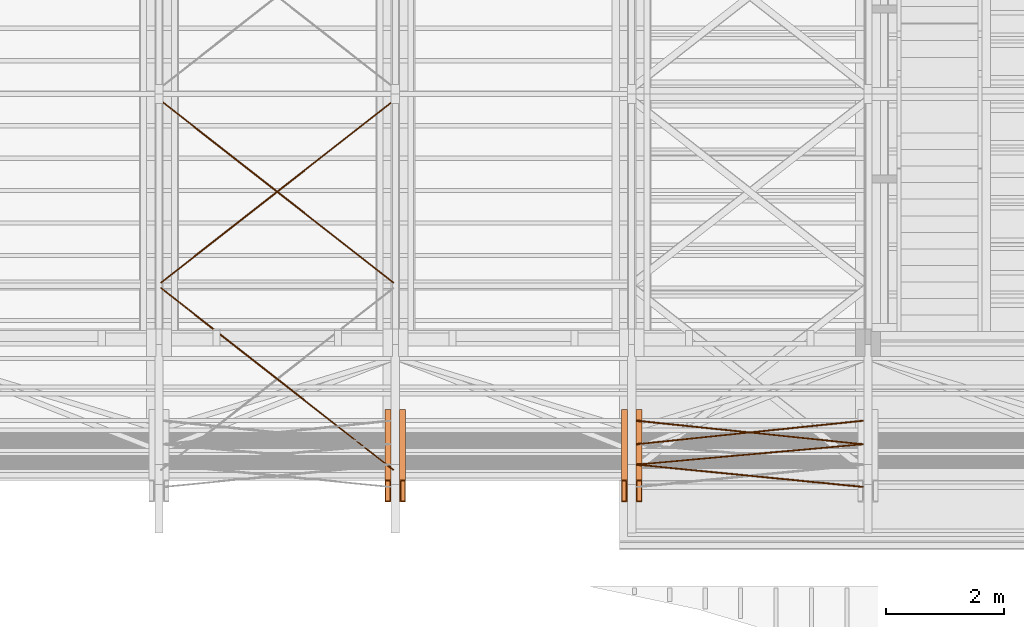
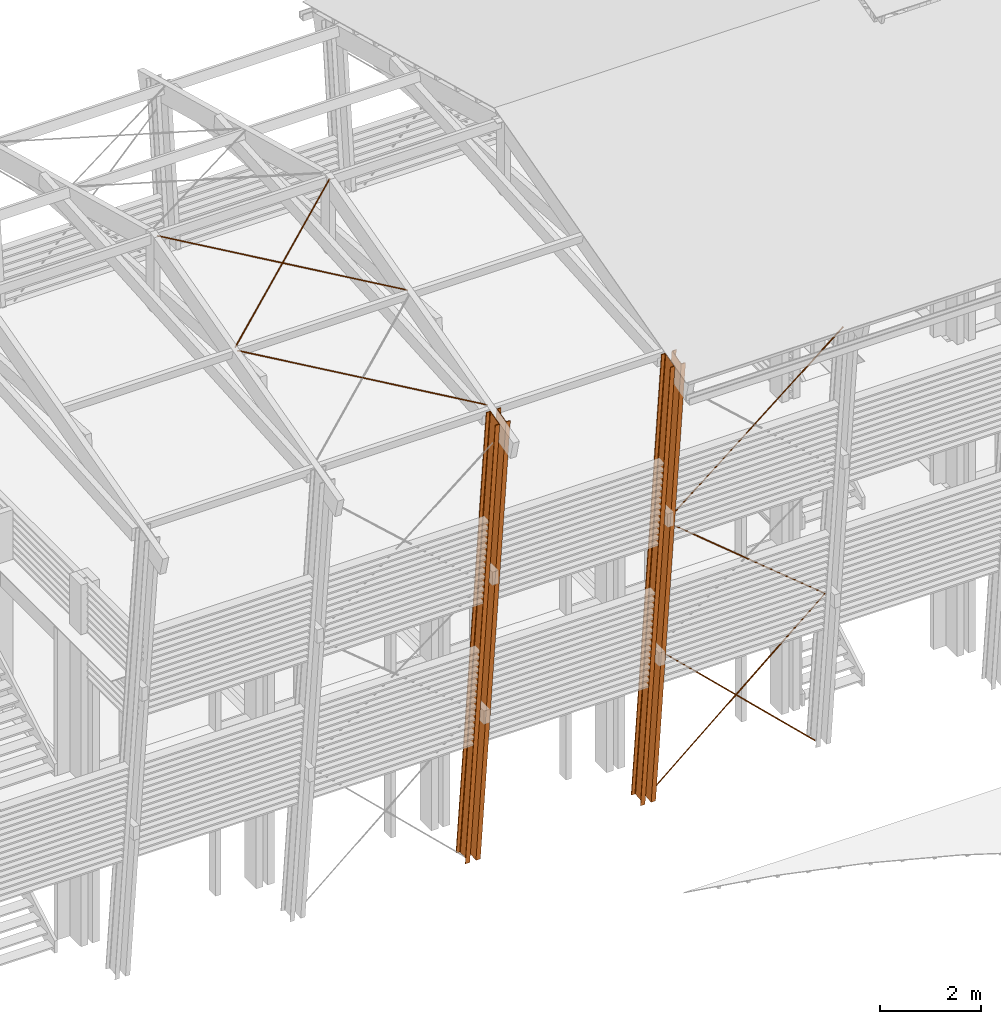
# One storey, part 36 of 48: 11 proxies.
"""IFC2X3 building model written with IfcOpenShell, lengths in metres."""

from ifc_helpers import new_model, si_unit, direction, frame, origin_with_axes, place, context, subcontext, project, spatial, faceted_brep, material, element, save


model = new_model("IFC2X3")

# Units and contexts
model_context = context("Model", 3, precision=1e-06, world=origin_with_axes(), true_north=direction((0.0, 1.0, 0.0)))
body_context = subcontext(model_context, "Body", "Model", "MODEL_VIEW")
ifc_project = project(units=[si_unit("LENGTHUNIT", "METRE"), si_unit("AREAUNIT", "SQUARE_METRE"), si_unit("VOLUMEUNIT", "CUBIC_METRE"), si_unit("PLANEANGLEUNIT", "RADIAN")], contexts=[model_context])

# Site, building, storey
site_placement = place(None, origin_with_axes())
site = spatial("IfcSite", under=ifc_project, at=site_placement, CompositionType="ELEMENT")
building_placement = place(site_placement, origin_with_axes())
building = spatial("IfcBuilding", under=site, at=building_placement, Name="Building 1", CompositionType="ELEMENT")
storey_placement = place(building_placement, origin_with_axes())
storey = spatial("IfcBuildingStorey", under=building, at=storey_placement, Name="Storey 1", CompositionType="ELEMENT", Elevation=0.0)

# Proxies
ifc_material = material(Name="Acier")
proxy_1_placement = place(storey_placement, frame((41.4057441, -195.1364145, 4.089), z_axis=(0.6523288, -0.0792259, 0.753784), x_axis=(-0.7579361, -0.0681869, 0.6487553)))
element("IfcBuildingElementProxy", 1, at=proxy_1_placement, inside=storey, material=ifc_material, Name="CVLP", context=body_context, shape_type="Brep", body=[
    faceted_brep([(5.0558353, -0.0093969, 0.0034202), (0.0, -0.01, 0.0), (5.0558353, -0.01, 0.0), (0.0, -0.0093969, -0.0034202), (5.0558353, -0.0093969, -0.0034202), (0.0, -0.0076604, -0.0064279), (5.0558353, -0.0076604, -0.0064279), (0.0, -0.005, -0.0086603), (5.0558353, -0.005, -0.0086603), (0.0, -0.0017365, -0.0098481), (5.0558353, -0.0017365, -0.0098481), (0.0, 0.0017365, -0.0098481), (5.0558353, 0.0017365, -0.0098481), (0.0, 0.005, -0.0086603), (5.0558353, 0.005, -0.0086603), (0.0, 0.0076604, -0.0064279), (5.0558353, 0.0076604, -0.0064279), (0.0, 0.0093969, -0.0034202), (5.0558353, 0.0093969, -0.0034202), (0.0, 0.01, 0.0), (5.0558353, 0.01, 0.0), (0.0, 0.0093969, 0.0034202), (5.0558353, 0.0093969, 0.0034202), (0.0, 0.0076604, 0.0064279), (5.0558353, 0.0076604, 0.0064279), (0.0, 0.005, 0.0086603), (5.0558353, 0.005, 0.0086603), (0.0, 0.0017365, 0.0098481), (5.0558353, 0.0017365, 0.0098481), (0.0, -0.0017365, 0.0098481), (5.0558353, -0.0017365, 0.0098481), (0.0, -0.005, 0.0086603), (5.0558353, -0.005, 0.0086603), (0.0, -0.0076604, 0.0064279), (5.0558353, -0.0076604, 0.0064279), (0.0, -0.0093969, 0.0034202)], [[[0, 1, 2]], [[2, 1, 3]], [[2, 3, 4]], [[4, 3, 5]], [[4, 5, 6]], [[6, 5, 7]], [[6, 7, 8]], [[8, 7, 9]], [[8, 9, 10]], [[10, 9, 11]], [[10, 11, 12]], [[12, 11, 13]], [[12, 13, 14]], [[14, 13, 15]], [[14, 15, 16]], [[16, 15, 17]], [[16, 17, 18]], [[18, 17, 19]], [[18, 19, 20]], [[20, 19, 21]], [[20, 21, 22]], [[22, 21, 23]], [[22, 23, 24]], [[24, 23, 25]], [[24, 25, 26]], [[26, 25, 27]], [[26, 27, 28]], [[28, 27, 29]], [[28, 29, 30]], [[30, 29, 31]], [[30, 31, 32]], [[32, 31, 33]], [[32, 33, 34]], [[34, 33, 35]], [[34, 35, 0]], [[0, 35, 1]], [[10, 12, 8]], [[8, 12, 14]], [[8, 14, 6]], [[6, 14, 16]], [[6, 16, 4]], [[4, 16, 18]], [[4, 18, 2]], [[2, 18, 20]], [[2, 20, 0]], [[0, 20, 22]], [[0, 22, 34]], [[34, 22, 24]], [[34, 24, 32]], [[32, 24, 26]], [[32, 26, 30]], [[30, 26, 28]], [[29, 27, 31]], [[31, 27, 25]], [[31, 25, 33]], [[33, 25, 23]], [[33, 23, 35]], [[35, 23, 21]], [[35, 21, 1]], [[1, 21, 19]], [[1, 19, 3]], [[3, 19, 17]], [[3, 17, 5]], [[5, 17, 15]], [[5, 15, 7]], [[7, 15, 13]], [[7, 13, 9]], [[9, 13, 11]]]),
])
proxy_2_placement = place(storey_placement, frame((41.4057433, -194.7381746, 0.3), z_axis=(0.7050562, -0.0741265, 0.7052666), x_axis=(-0.7091514, -0.0736984, 0.7011938)))
element("IfcBuildingElementProxy", 2, at=proxy_2_placement, inside=storey, material=ifc_material, Name="CVLP", context=body_context, shape_type="Brep", body=[
    faceted_brep([(5.4036414, 0.0093969, -0.0034202), (0.0, 0.01, 0.0), (5.4036414, 0.01, 0.0), (0.0, 0.0093969, 0.0034202), (5.4036414, 0.0093969, 0.0034202), (0.0, 0.0076604, 0.0064279), (5.4036414, 0.0076604, 0.0064279), (0.0, 0.005, 0.0086603), (5.4036414, 0.005, 0.0086603), (0.0, 0.0017365, 0.0098481), (5.4036414, 0.0017365, 0.0098481), (0.0, -0.0017365, 0.0098481), (5.4036414, -0.0017365, 0.0098481), (0.0, -0.005, 0.0086603), (5.4036414, -0.005, 0.0086603), (0.0, -0.0076604, 0.0064279), (5.4036414, -0.0076604, 0.0064279), (0.0, -0.0093969, 0.0034202), (5.4036414, -0.0093969, 0.0034202), (0.0, -0.01, 0.0), (5.4036414, -0.01, 0.0), (0.0, -0.0093969, -0.0034202), (5.4036414, -0.0093969, -0.0034202), (0.0, -0.0076604, -0.0064279), (5.4036414, -0.0076604, -0.0064279), (0.0, -0.005, -0.0086603), (5.4036414, -0.005, -0.0086603), (0.0, -0.0017365, -0.0098481), (5.4036414, -0.0017365, -0.0098481), (0.0, 0.0017365, -0.0098481), (5.4036414, 0.0017365, -0.0098481), (0.0, 0.005, -0.0086603), (5.4036414, 0.005, -0.0086603), (0.0, 0.0076604, -0.0064279), (5.4036414, 0.0076604, -0.0064279), (0.0, 0.0093969, -0.0034202)], [[[0, 1, 2]], [[2, 1, 3]], [[2, 3, 4]], [[4, 3, 5]], [[4, 5, 6]], [[6, 5, 7]], [[6, 7, 8]], [[8, 7, 9]], [[8, 9, 10]], [[10, 9, 11]], [[10, 11, 12]], [[12, 11, 13]], [[12, 13, 14]], [[14, 13, 15]], [[14, 15, 16]], [[16, 15, 17]], [[16, 17, 18]], [[18, 17, 19]], [[18, 19, 20]], [[20, 19, 21]], [[20, 21, 22]], [[22, 21, 23]], [[22, 23, 24]], [[24, 23, 25]], [[24, 25, 26]], [[26, 25, 27]], [[26, 27, 28]], [[28, 27, 29]], [[28, 29, 30]], [[30, 29, 31]], [[30, 31, 32]], [[32, 31, 33]], [[32, 33, 34]], [[34, 33, 35]], [[34, 35, 0]], [[0, 35, 1]], [[10, 12, 8]], [[8, 12, 14]], [[8, 14, 6]], [[6, 14, 16]], [[6, 16, 4]], [[4, 16, 18]], [[4, 18, 2]], [[2, 18, 20]], [[2, 20, 0]], [[0, 20, 22]], [[0, 22, 34]], [[34, 22, 24]], [[34, 24, 32]], [[32, 24, 26]], [[32, 26, 30]], [[30, 26, 28]], [[29, 27, 31]], [[31, 27, 25]], [[31, 25, 33]], [[33, 25, 23]], [[33, 23, 35]], [[35, 23, 21]], [[35, 21, 1]], [[1, 21, 19]], [[1, 19, 3]], [[3, 19, 17]], [[3, 17, 5]], [[5, 17, 15]], [[5, 15, 7]], [[7, 15, 13]], [[7, 13, 9]], [[9, 13, 11]]]),
])
proxy_3_placement = place(storey_placement, frame((37.3687437, -195.9301471, 11.6408612), z_axis=(0.0, 0.9945219, 0.1045285), x_axis=(0.0, 0.1045285, -0.9945219)))
element("IfcBuildingElementProxy", 3, at=proxy_3_placement, inside=storey, material=ifc_material, Name="Poteau", context=body_context, shape_type="Brep", body=[
    faceted_brep([(0.0588262, 0.0506328, -0.181414), (0.0592057, 0.051, -0.18381), (0.0579402, 0.0433995, -0.17582), (0.0601861, 0.051, -0.19), (0.0574199, -0.022299, -0.172535), (0.0601861, -0.051, -0.19), (0.0572658, -0.0270483, -0.1715622), (0.0568935, -0.0312883, -0.1692116), (0.0038489, -0.0346296, 0.165699), (0.0045382, -0.0367655, 0.161347), (0.0, -0.051, 0.19), (0.0052972, -0.0375, 0.156555), (0.0548889, -0.0375, -0.156555), (0.0556479, -0.0367655, -0.161347), (0.0009804, 0.051, 0.18381), (0.0022459, 0.0433995, 0.17582), (0.0, 0.051, 0.19), (0.0027662, -0.022299, 0.172535), (0.0029203, -0.0270483, 0.1715622), (0.0032926, -0.0312883, 0.1692116), (0.0013599, 0.0506328, 0.181414), (0.0017045, 0.0495648, 0.179238), (0.0019827, 0.0478941, 0.1774817), (0.0021689, 0.0457742, 0.1763064), (0.0563372, -0.0346296, -0.165699), (0.0580172, 0.0457742, -0.1763064), (0.0582034, 0.0478941, -0.1774817), (0.0584816, 0.0495648, -0.179238), (11.420672, 0.0433995, 0.17582), (11.420672, 0.0457742, 0.1763064), (11.420672, 0.0478941, 0.1774817), (11.420672, 0.0495648, 0.179238), (11.420672, 0.0506328, 0.181414), (11.420672, 0.051, 0.18381), (11.420672, 0.051, 0.19), (11.420672, -0.051, 0.19), (11.420672, -0.051, -0.19), (11.420672, 0.051, -0.19), (11.420672, 0.051, -0.18381), (11.420672, 0.0506328, -0.181414), (11.420672, 0.0495648, -0.179238), (11.420672, 0.0478941, -0.1774817), (11.420672, 0.0457742, -0.1763064), (11.420672, 0.0433995, -0.17582), (11.420672, -0.022299, -0.172535), (11.420672, -0.0270483, -0.1715622), (11.420672, -0.0312883, -0.1692116), (11.420672, -0.0346296, -0.165699), (11.420672, -0.0367655, -0.161347), (11.420672, -0.0375, -0.156555), (11.420672, -0.0375, 0.156555), (11.420672, -0.0367655, 0.161347), (11.420672, -0.0346296, 0.165699), (11.420672, -0.0312883, 0.1692116), (11.420672, -0.0270483, 0.1715622), (11.420672, -0.022299, 0.172535)], [[[0, 1, 2]], [[2, 1, 3]], [[2, 3, 4]], [[4, 3, 5]], [[4, 5, 6]], [[6, 5, 7]], [[8, 9, 10]], [[10, 9, 11]], [[10, 11, 5]], [[5, 11, 12]], [[5, 12, 13]], [[14, 15, 16]], [[16, 15, 17]], [[16, 17, 10]], [[10, 17, 18]], [[10, 18, 19]], [[14, 20, 15]], [[15, 20, 21]], [[15, 21, 22]], [[22, 23, 15]], [[19, 8, 10]], [[13, 24, 5]], [[5, 24, 7]], [[25, 26, 2]], [[2, 26, 27]], [[2, 27, 0]], [[15, 23, 28]], [[28, 23, 29]], [[23, 22, 29]], [[29, 22, 30]], [[22, 21, 30]], [[30, 21, 31]], [[21, 20, 31]], [[31, 20, 32]], [[20, 14, 32]], [[32, 14, 33]], [[16, 34, 14]], [[14, 34, 33]], [[10, 5, 35]], [[35, 5, 36]], [[5, 3, 36]], [[36, 3, 37]], [[1, 38, 3]], [[3, 38, 37]], [[1, 0, 38]], [[38, 0, 39]], [[0, 27, 39]], [[39, 27, 40]], [[27, 26, 40]], [[40, 26, 41]], [[26, 25, 41]], [[41, 25, 42]], [[25, 2, 42]], [[42, 2, 43]], [[4, 44, 2]], [[2, 44, 43]], [[4, 6, 44]], [[44, 6, 45]], [[6, 7, 45]], [[45, 7, 46]], [[7, 24, 46]], [[46, 24, 47]], [[24, 13, 47]], [[47, 13, 48]], [[13, 12, 48]], [[48, 12, 49]], [[11, 50, 12]], [[12, 50, 49]], [[11, 9, 50]], [[50, 9, 51]], [[9, 8, 51]], [[51, 8, 52]], [[8, 19, 52]], [[52, 19, 53]], [[19, 18, 53]], [[53, 18, 54]], [[18, 17, 54]], [[54, 17, 55]], [[15, 28, 17]], [[17, 28, 55]], [[35, 34, 10]], [[10, 34, 16]], [[48, 49, 36]], [[36, 49, 50]], [[36, 50, 35]], [[35, 50, 51]], [[35, 51, 52]], [[41, 42, 38]], [[38, 42, 43]], [[38, 43, 37]], [[37, 43, 44]], [[37, 44, 36]], [[36, 44, 45]], [[36, 45, 46]], [[39, 40, 38]], [[38, 40, 41]], [[46, 47, 36]], [[36, 47, 48]], [[52, 53, 35]], [[35, 53, 54]], [[35, 54, 55]], [[35, 55, 34]], [[34, 55, 28]], [[34, 28, 33]], [[33, 28, 32]], [[29, 30, 28]], [[28, 30, 31]], [[28, 31, 32]]]),
])
proxy_4_placement = place(storey_placement, frame((37.5737441, -195.4811564, 7.369), z_axis=(-0.6859491, -0.0760601, 0.7236634), x_axis=(0.7276496, -0.0717012, 0.6821914)))
element("IfcBuildingElementProxy", 4, at=proxy_4_placement, inside=storey, material=ifc_material, Name="CVLP", context=body_context, shape_type="Brep", body=[
    faceted_brep([(5.2662712, -0.0093969, 0.0034202), (0.0, -0.01, 0.0), (5.2662712, -0.01, 0.0), (0.0, -0.0093969, -0.0034202), (5.2662712, -0.0093969, -0.0034202), (0.0, -0.0076604, -0.0064279), (5.2662712, -0.0076604, -0.0064279), (0.0, -0.005, -0.0086603), (5.2662712, -0.005, -0.0086603), (0.0, -0.0017365, -0.0098481), (5.2662712, -0.0017365, -0.0098481), (0.0, 0.0017365, -0.0098481), (5.2662712, 0.0017365, -0.0098481), (0.0, 0.005, -0.0086603), (5.2662712, 0.005, -0.0086603), (0.0, 0.0076604, -0.0064279), (5.2662712, 0.0076604, -0.0064279), (0.0, 0.0093969, -0.0034202), (5.2662712, 0.0093969, -0.0034202), (0.0, 0.01, 0.0), (5.2662712, 0.01, 0.0), (0.0, 0.0093969, 0.0034202), (5.2662712, 0.0093969, 0.0034202), (0.0, 0.0076604, 0.0064279), (5.2662712, 0.0076604, 0.0064279), (0.0, 0.005, 0.0086603), (5.2662712, 0.005, 0.0086603), (0.0, 0.0017365, 0.0098481), (5.2662712, 0.0017365, 0.0098481), (0.0, -0.0017365, 0.0098481), (5.2662712, -0.0017365, 0.0098481), (0.0, -0.005, 0.0086603), (5.2662712, -0.005, 0.0086603), (0.0, -0.0076604, 0.0064279), (5.2662712, -0.0076604, 0.0064279), (0.0, -0.0093969, 0.0034202)], [[[0, 1, 2]], [[2, 1, 3]], [[2, 3, 4]], [[4, 3, 5]], [[4, 5, 6]], [[6, 5, 7]], [[6, 7, 8]], [[8, 7, 9]], [[8, 9, 10]], [[10, 9, 11]], [[10, 11, 12]], [[12, 11, 13]], [[12, 13, 14]], [[14, 13, 15]], [[14, 15, 16]], [[16, 15, 17]], [[16, 17, 18]], [[18, 17, 19]], [[18, 19, 20]], [[20, 19, 21]], [[20, 21, 22]], [[22, 21, 23]], [[22, 23, 24]], [[24, 23, 25]], [[24, 25, 26]], [[26, 25, 27]], [[26, 27, 28]], [[28, 27, 29]], [[28, 29, 30]], [[30, 29, 31]], [[30, 31, 32]], [[32, 31, 33]], [[32, 33, 34]], [[34, 33, 35]], [[34, 35, 0]], [[0, 35, 1]], [[10, 12, 8]], [[8, 12, 14]], [[8, 14, 6]], [[6, 14, 16]], [[6, 16, 4]], [[4, 16, 18]], [[4, 18, 2]], [[2, 18, 20]], [[2, 20, 0]], [[0, 20, 22]], [[0, 22, 34]], [[34, 22, 24]], [[34, 24, 32]], [[32, 24, 26]], [[32, 26, 30]], [[30, 26, 28]], [[29, 27, 31]], [[31, 27, 25]], [[31, 25, 33]], [[33, 25, 23]], [[33, 23, 35]], [[35, 23, 21]], [[35, 21, 1]], [[1, 21, 19]], [[1, 19, 3]], [[3, 19, 17]], [[3, 17, 5]], [[5, 17, 15]], [[5, 15, 7]], [[7, 15, 13]], [[7, 13, 9]], [[9, 13, 11]]]),
])
proxy_5_placement = place(storey_placement, frame((37.5737441, -194.7381746, 0.3), z_axis=(-0.7050562, -0.0741265, 0.7052666), x_axis=(0.7091514, -0.0736984, 0.7011938)))
element("IfcBuildingElementProxy", 5, at=proxy_5_placement, inside=storey, material=ifc_material, Name="CVLP", context=body_context, shape_type="Brep", body=[
    faceted_brep([(5.4036414, -0.0093969, 0.0034202), (0.0, -0.01, 0.0), (5.4036414, -0.01, 0.0), (0.0, -0.0093969, -0.0034202), (5.4036414, -0.0093969, -0.0034202), (0.0, -0.0076604, -0.0064279), (5.4036414, -0.0076604, -0.0064279), (0.0, -0.005, -0.0086603), (5.4036414, -0.005, -0.0086603), (0.0, -0.0017365, -0.0098481), (5.4036414, -0.0017365, -0.0098481), (0.0, 0.0017365, -0.0098481), (5.4036414, 0.0017365, -0.0098481), (0.0, 0.005, -0.0086603), (5.4036414, 0.005, -0.0086603), (0.0, 0.0076604, -0.0064279), (5.4036414, 0.0076604, -0.0064279), (0.0, 0.0093969, -0.0034202), (5.4036414, 0.0093969, -0.0034202), (0.0, 0.01, 0.0), (5.4036414, 0.01, 0.0), (0.0, 0.0093969, 0.0034202), (5.4036414, 0.0093969, 0.0034202), (0.0, 0.0076604, 0.0064279), (5.4036414, 0.0076604, 0.0064279), (0.0, 0.005, 0.0086603), (5.4036414, 0.005, 0.0086603), (0.0, 0.0017365, 0.0098481), (5.4036414, 0.0017365, 0.0098481), (0.0, -0.0017365, 0.0098481), (5.4036414, -0.0017365, 0.0098481), (0.0, -0.005, 0.0086603), (5.4036414, -0.005, 0.0086603), (0.0, -0.0076604, 0.0064279), (5.4036414, -0.0076604, 0.0064279), (0.0, -0.0093969, 0.0034202)], [[[0, 1, 2]], [[2, 1, 3]], [[2, 3, 4]], [[4, 3, 5]], [[4, 5, 6]], [[6, 5, 7]], [[6, 7, 8]], [[8, 7, 9]], [[8, 9, 10]], [[10, 9, 11]], [[10, 11, 12]], [[12, 11, 13]], [[12, 13, 14]], [[14, 13, 15]], [[14, 15, 16]], [[16, 15, 17]], [[16, 17, 18]], [[18, 17, 19]], [[18, 19, 20]], [[20, 19, 21]], [[20, 21, 22]], [[22, 21, 23]], [[22, 23, 24]], [[24, 23, 25]], [[24, 25, 26]], [[26, 25, 27]], [[26, 27, 28]], [[28, 27, 29]], [[28, 29, 30]], [[30, 29, 31]], [[30, 31, 32]], [[32, 31, 33]], [[32, 33, 34]], [[34, 33, 35]], [[34, 35, 0]], [[0, 35, 1]], [[10, 12, 8]], [[8, 12, 14]], [[8, 14, 6]], [[6, 14, 16]], [[6, 16, 4]], [[4, 16, 18]], [[4, 18, 2]], [[2, 18, 20]], [[2, 20, 0]], [[0, 20, 22]], [[0, 22, 34]], [[34, 22, 24]], [[34, 24, 32]], [[32, 24, 26]], [[32, 26, 30]], [[30, 26, 28]], [[29, 27, 31]], [[31, 27, 25]], [[31, 25, 33]], [[33, 25, 23]], [[33, 23, 35]], [[35, 23, 21]], [[35, 21, 1]], [[1, 21, 19]], [[1, 19, 3]], [[3, 19, 17]], [[3, 17, 5]], [[5, 17, 15]], [[5, 15, 7]], [[7, 15, 13]], [[7, 13, 9]], [[9, 13, 11]]]),
])
proxy_6_placement = place(storey_placement, frame((33.4575106, -192.402372, 12.5320609), z_axis=(0.6294478, 0.7505657, 0.2011135), x_axis=(-0.7770428, 0.6079999, 0.1629131)))
element("IfcBuildingElementProxy", 6, at=proxy_6_placement, inside=storey, material=ifc_material, Name="CVT", context=body_context, shape_type="Brep", body=[
    faceted_brep([(5.0647581, -0.0093969, 0.0034202), (0.0, -0.01, 0.0), (5.0647581, -0.01, 0.0), (0.0, -0.0093969, -0.0034202), (5.0647581, -0.0093969, -0.0034202), (0.0, -0.0076604, -0.0064279), (5.0647581, -0.0076604, -0.0064279), (0.0, -0.005, -0.0086603), (5.0647581, -0.005, -0.0086603), (0.0, -0.0017365, -0.0098481), (5.0647581, -0.0017365, -0.0098481), (0.0, 0.0017365, -0.0098481), (5.0647581, 0.0017365, -0.0098481), (0.0, 0.005, -0.0086603), (5.0647581, 0.005, -0.0086603), (0.0, 0.0076604, -0.0064279), (5.0647581, 0.0076604, -0.0064279), (0.0, 0.0093969, -0.0034202), (5.0647581, 0.0093969, -0.0034202), (0.0, 0.01, 0.0), (5.0647581, 0.01, 0.0), (0.0, 0.0093969, 0.0034202), (5.0647581, 0.0093969, 0.0034202), (0.0, 0.0076604, 0.0064279), (5.0647581, 0.0076604, 0.0064279), (0.0, 0.005, 0.0086603), (5.0647581, 0.005, 0.0086603), (0.0, 0.0017365, 0.0098481), (5.0647581, 0.0017365, 0.0098481), (0.0, -0.0017365, 0.0098481), (5.0647581, -0.0017365, 0.0098481), (0.0, -0.005, 0.0086603), (5.0647581, -0.005, 0.0086603), (0.0, -0.0076604, 0.0064279), (5.0647581, -0.0076604, 0.0064279), (0.0, -0.0093969, 0.0034202)], [[[0, 1, 2]], [[2, 1, 3]], [[2, 3, 4]], [[4, 3, 5]], [[4, 5, 6]], [[6, 5, 7]], [[6, 7, 8]], [[8, 7, 9]], [[8, 9, 10]], [[10, 9, 11]], [[10, 11, 12]], [[12, 11, 13]], [[12, 13, 14]], [[14, 13, 15]], [[14, 15, 16]], [[16, 15, 17]], [[16, 17, 18]], [[18, 17, 19]], [[18, 19, 20]], [[20, 19, 21]], [[20, 21, 22]], [[22, 21, 23]], [[22, 23, 24]], [[24, 23, 25]], [[24, 25, 26]], [[26, 25, 27]], [[26, 27, 28]], [[28, 27, 29]], [[28, 29, 30]], [[30, 29, 31]], [[30, 31, 32]], [[32, 31, 33]], [[32, 33, 34]], [[34, 33, 35]], [[34, 35, 0]], [[0, 35, 1]], [[10, 12, 8]], [[8, 12, 14]], [[8, 14, 6]], [[6, 14, 16]], [[6, 16, 4]], [[4, 16, 18]], [[4, 18, 2]], [[2, 18, 20]], [[2, 20, 0]], [[0, 20, 22]], [[0, 22, 34]], [[34, 22, 24]], [[34, 24, 32]], [[32, 24, 26]], [[32, 26, 30]], [[30, 26, 28]], [[29, 27, 31]], [[31, 27, 25]], [[31, 25, 33]], [[33, 25, 23]], [[33, 23, 35]], [[35, 23, 21]], [[35, 21, 1]], [[1, 21, 19]], [[1, 19, 3]], [[3, 19, 17]], [[3, 17, 5]], [[5, 17, 15]], [[5, 15, 7]], [[7, 15, 13]], [[7, 13, 9]], [[9, 13, 11]]]),
])
proxy_7_placement = place(storey_placement, frame((29.5219764, -192.402372, 12.5320609), z_axis=(-0.6294478, 0.7505657, 0.2011135), x_axis=(0.7770428, 0.6079999, 0.1629131)))
element("IfcBuildingElementProxy", 7, at=proxy_7_placement, inside=storey, material=ifc_material, Name="CVT", context=body_context, shape_type="Brep", body=[
    faceted_brep([(5.0647581, -0.0093969, 0.0034202), (0.0, -0.01, 0.0), (5.0647581, -0.01, 0.0), (0.0, -0.0093969, -0.0034202), (5.0647581, -0.0093969, -0.0034202), (0.0, -0.0076604, -0.0064279), (5.0647581, -0.0076604, -0.0064279), (0.0, -0.005, -0.0086603), (5.0647581, -0.005, -0.0086603), (0.0, -0.0017365, -0.0098481), (5.0647581, -0.0017365, -0.0098481), (0.0, 0.0017365, -0.0098481), (5.0647581, 0.0017365, -0.0098481), (0.0, 0.005, -0.0086603), (5.0647581, 0.005, -0.0086603), (0.0, 0.0076604, -0.0064279), (5.0647581, 0.0076604, -0.0064279), (0.0, 0.0093969, -0.0034202), (5.0647581, 0.0093969, -0.0034202), (0.0, 0.01, 0.0), (5.0647581, 0.01, 0.0), (0.0, 0.0093969, 0.0034202), (5.0647581, 0.0093969, 0.0034202), (0.0, 0.0076604, 0.0064279), (5.0647581, 0.0076604, 0.0064279), (0.0, 0.005, 0.0086603), (5.0647581, 0.005, 0.0086603), (0.0, 0.0017365, 0.0098481), (5.0647581, 0.0017365, 0.0098481), (0.0, -0.0017365, 0.0098481), (5.0647581, -0.0017365, 0.0098481), (0.0, -0.005, 0.0086603), (5.0647581, -0.005, 0.0086603), (0.0, -0.0076604, 0.0064279), (5.0647581, -0.0076604, 0.0064279), (0.0, -0.0093969, 0.0034202)], [[[0, 1, 2]], [[2, 1, 3]], [[2, 3, 4]], [[4, 3, 5]], [[4, 5, 6]], [[6, 5, 7]], [[6, 7, 8]], [[8, 7, 9]], [[8, 9, 10]], [[10, 9, 11]], [[10, 11, 12]], [[12, 11, 13]], [[12, 13, 14]], [[14, 13, 15]], [[14, 15, 16]], [[16, 15, 17]], [[16, 17, 18]], [[18, 17, 19]], [[18, 19, 20]], [[20, 19, 21]], [[20, 21, 22]], [[22, 21, 23]], [[22, 23, 24]], [[24, 23, 25]], [[24, 25, 26]], [[26, 25, 27]], [[26, 27, 28]], [[28, 27, 29]], [[28, 29, 30]], [[30, 29, 31]], [[30, 31, 32]], [[32, 31, 33]], [[32, 33, 34]], [[34, 33, 35]], [[34, 35, 0]], [[0, 35, 1]], [[10, 12, 8]], [[8, 12, 14]], [[8, 14, 6]], [[6, 14, 16]], [[6, 16, 4]], [[4, 16, 18]], [[4, 18, 2]], [[2, 18, 20]], [[2, 20, 0]], [[0, 20, 22]], [[0, 22, 34]], [[34, 22, 24]], [[34, 24, 32]], [[32, 24, 26]], [[32, 26, 30]], [[30, 26, 28]], [[29, 27, 31]], [[31, 27, 25]], [[31, 25, 33]], [[33, 25, 23]], [[33, 23, 35]], [[35, 23, 21]], [[35, 21, 1]], [[1, 21, 19]], [[1, 19, 3]], [[3, 19, 17]], [[3, 17, 5]], [[5, 17, 15]], [[5, 15, 7]], [[7, 15, 13]], [[7, 13, 9]], [[9, 13, 11]]]),
])
proxy_8_placement = place(storey_placement, frame((33.4575102, -195.5718121, 11.682812), z_axis=(0.6294478, 0.7505657, 0.2011135), x_axis=(-0.7770428, 0.6079999, 0.1629131)))
element("IfcBuildingElementProxy", 8, at=proxy_8_placement, inside=storey, material=ifc_material, Name="CVT", context=body_context, shape_type="Brep", body=[
    faceted_brep([(5.0647581, -0.0093969, 0.0034202), (0.0, -0.01, 0.0), (5.0647581, -0.01, 0.0), (0.0, -0.0093969, -0.0034202), (5.0647581, -0.0093969, -0.0034202), (0.0, -0.0076604, -0.0064279), (5.0647581, -0.0076604, -0.0064279), (0.0, -0.005, -0.0086603), (5.0647581, -0.005, -0.0086603), (0.0, -0.0017365, -0.0098481), (5.0647581, -0.0017365, -0.0098481), (0.0, 0.0017365, -0.0098481), (5.0647581, 0.0017365, -0.0098481), (0.0, 0.005, -0.0086603), (5.0647581, 0.005, -0.0086603), (0.0, 0.0076604, -0.0064279), (5.0647581, 0.0076604, -0.0064279), (0.0, 0.0093969, -0.0034202), (5.0647581, 0.0093969, -0.0034202), (0.0, 0.01, 0.0), (5.0647581, 0.01, 0.0), (0.0, 0.0093969, 0.0034202), (5.0647581, 0.0093969, 0.0034202), (0.0, 0.0076604, 0.0064279), (5.0647581, 0.0076604, 0.0064279), (0.0, 0.005, 0.0086603), (5.0647581, 0.005, 0.0086603), (0.0, 0.0017365, 0.0098481), (5.0647581, 0.0017365, 0.0098481), (0.0, -0.0017365, 0.0098481), (5.0647581, -0.0017365, 0.0098481), (0.0, -0.005, 0.0086603), (5.0647581, -0.005, 0.0086603), (0.0, -0.0076604, 0.0064279), (5.0647581, -0.0076604, 0.0064279), (0.0, -0.0093969, 0.0034202)], [[[0, 1, 2]], [[2, 1, 3]], [[2, 3, 4]], [[4, 3, 5]], [[4, 5, 6]], [[6, 5, 7]], [[6, 7, 8]], [[8, 7, 9]], [[8, 9, 10]], [[10, 9, 11]], [[10, 11, 12]], [[12, 11, 13]], [[12, 13, 14]], [[14, 13, 15]], [[14, 15, 16]], [[16, 15, 17]], [[16, 17, 18]], [[18, 17, 19]], [[18, 19, 20]], [[20, 19, 21]], [[20, 21, 22]], [[22, 21, 23]], [[22, 23, 24]], [[24, 23, 25]], [[24, 25, 26]], [[26, 25, 27]], [[26, 27, 28]], [[28, 27, 29]], [[28, 29, 30]], [[30, 29, 31]], [[30, 31, 32]], [[32, 31, 33]], [[32, 33, 34]], [[34, 33, 35]], [[34, 35, 0]], [[0, 35, 1]], [[10, 12, 8]], [[8, 12, 14]], [[8, 14, 6]], [[6, 14, 16]], [[6, 16, 4]], [[4, 16, 18]], [[4, 18, 2]], [[2, 18, 20]], [[2, 20, 0]], [[0, 20, 22]], [[0, 22, 34]], [[34, 22, 24]], [[34, 24, 32]], [[32, 24, 26]], [[32, 26, 30]], [[30, 26, 28]], [[29, 27, 31]], [[31, 27, 25]], [[31, 25, 33]], [[33, 25, 23]], [[33, 23, 35]], [[35, 23, 21]], [[35, 21, 1]], [[1, 21, 19]], [[1, 19, 3]], [[3, 19, 17]], [[3, 17, 5]], [[5, 17, 15]], [[5, 15, 7]], [[7, 15, 13]], [[7, 13, 9]], [[9, 13, 11]]]),
])
proxy_9_placement = place(storey_placement, frame((37.6107437, -195.9301471, 11.6408612), z_axis=(0.0, 0.9945219, 0.1045285), x_axis=(0.0, 0.1045285, -0.9945219)))
element("IfcBuildingElementProxy", 9, at=proxy_9_placement, inside=storey, material=ifc_material, Name="Poteau", context=body_context, shape_type="Brep", body=[
    faceted_brep([(0.0556479, 0.0367655, -0.161347), (0.0548889, 0.0375, -0.156555), (0.0601861, 0.051, -0.19), (0.0052972, 0.0375, 0.156555), (0.0, 0.051, 0.19), (0.0045382, 0.0367655, 0.161347), (0.0038489, 0.0346296, 0.165699), (0.0592057, -0.051, -0.18381), (0.0579402, -0.0433995, -0.17582), (0.0601861, -0.051, -0.19), (0.0574199, 0.022299, -0.172535), (0.0572658, 0.0270483, -0.1715622), (0.0568935, 0.0312883, -0.1692116), (0.0588262, -0.0506328, -0.181414), (0.0584816, -0.0495648, -0.179238), (0.0582034, -0.0478941, -0.1774817), (0.0580172, -0.0457742, -0.1763064), (0.0563372, 0.0346296, -0.165699), (0.0032926, 0.0312883, 0.1692116), (0.0029203, 0.0270483, 0.1715622), (0.0027662, 0.022299, 0.172535), (0.0, -0.051, 0.19), (0.0022459, -0.0433995, 0.17582), (0.0009804, -0.051, 0.18381), (0.0013599, -0.0506328, 0.181414), (0.0021689, -0.0457742, 0.1763064), (0.0019827, -0.0478941, 0.1774817), (0.0017045, -0.0495648, 0.179238), (11.420672, 0.0375, -0.156555), (11.420672, 0.0367655, -0.161347), (11.420672, 0.0346296, -0.165699), (11.420672, 0.0312883, -0.1692116), (11.420672, 0.0270483, -0.1715622), (11.420672, 0.022299, -0.172535), (11.420672, -0.0433995, -0.17582), (11.420672, -0.0457742, -0.1763064), (11.420672, -0.0478941, -0.1774817), (11.420672, -0.0495648, -0.179238), (11.420672, -0.0506328, -0.181414), (11.420672, -0.051, -0.18381), (11.420672, -0.051, -0.19), (11.420672, 0.051, -0.19), (11.420672, 0.051, 0.19), (11.420672, -0.051, 0.19), (11.420672, -0.051, 0.18381), (11.420672, -0.0506328, 0.181414), (11.420672, -0.0495648, 0.179238), (11.420672, -0.0478941, 0.1774817), (11.420672, -0.0457742, 0.1763064), (11.420672, -0.0433995, 0.17582), (11.420672, 0.022299, 0.172535), (11.420672, 0.0270483, 0.1715622), (11.420672, 0.0312883, 0.1692116), (11.420672, 0.0346296, 0.165699), (11.420672, 0.0367655, 0.161347), (11.420672, 0.0375, 0.156555)], [[[0, 1, 2]], [[2, 1, 3]], [[2, 3, 4]], [[4, 3, 5]], [[4, 5, 6]], [[7, 8, 9]], [[9, 8, 10]], [[9, 10, 2]], [[2, 10, 11]], [[2, 11, 12]], [[7, 13, 8]], [[8, 13, 14]], [[8, 14, 15]], [[15, 16, 8]], [[12, 17, 2]], [[2, 17, 0]], [[6, 18, 4]], [[4, 18, 19]], [[4, 19, 20]], [[4, 20, 21]], [[21, 20, 22]], [[21, 22, 23]], [[23, 22, 24]], [[25, 26, 22]], [[22, 26, 27]], [[22, 27, 24]], [[1, 0, 28]], [[28, 0, 29]], [[0, 17, 29]], [[29, 17, 30]], [[17, 12, 30]], [[30, 12, 31]], [[12, 11, 31]], [[31, 11, 32]], [[11, 10, 32]], [[32, 10, 33]], [[10, 8, 33]], [[33, 8, 34]], [[8, 16, 34]], [[34, 16, 35]], [[16, 15, 35]], [[35, 15, 36]], [[15, 14, 36]], [[36, 14, 37]], [[14, 13, 37]], [[37, 13, 38]], [[13, 7, 38]], [[38, 7, 39]], [[7, 9, 39]], [[39, 9, 40]], [[9, 2, 40]], [[40, 2, 41]], [[4, 42, 2]], [[2, 42, 41]], [[43, 42, 21]], [[21, 42, 4]], [[21, 23, 43]], [[43, 23, 44]], [[23, 24, 44]], [[44, 24, 45]], [[24, 27, 45]], [[45, 27, 46]], [[27, 26, 46]], [[46, 26, 47]], [[26, 25, 47]], [[47, 25, 48]], [[25, 22, 48]], [[48, 22, 49]], [[22, 20, 49]], [[49, 20, 50]], [[20, 19, 50]], [[50, 19, 51]], [[19, 18, 51]], [[51, 18, 52]], [[18, 6, 52]], [[52, 6, 53]], [[6, 5, 53]], [[53, 5, 54]], [[5, 3, 54]], [[54, 3, 55]], [[3, 1, 55]], [[55, 1, 28]], [[53, 54, 42]], [[42, 54, 55]], [[42, 55, 41]], [[41, 55, 28]], [[41, 28, 29]], [[44, 49, 43]], [[43, 49, 50]], [[43, 50, 42]], [[42, 50, 51]], [[42, 51, 52]], [[44, 45, 49]], [[49, 45, 46]], [[49, 46, 47]], [[47, 48, 49]], [[52, 53, 42]], [[29, 30, 41]], [[41, 30, 31]], [[41, 31, 32]], [[32, 33, 41]], [[41, 33, 40]], [[33, 34, 40]], [[40, 34, 39]], [[34, 35, 39]], [[39, 35, 36]], [[39, 36, 37]], [[37, 38, 39]]]),
])
proxy_10_placement = place(storey_placement, frame((33.3687437, -195.9301471, 11.6408612), z_axis=(0.0, 0.9945219, 0.1045285), x_axis=(0.0, 0.1045285, -0.9945219)))
element("IfcBuildingElementProxy", 10, at=proxy_10_placement, inside=storey, material=ifc_material, Name="Poteau", context=body_context, shape_type="Brep", body=[
    faceted_brep([(0.0588262, 0.0506328, -0.181414), (0.0592057, 0.051, -0.18381), (0.0579402, 0.0433995, -0.17582), (0.0601861, 0.051, -0.19), (0.0574199, -0.022299, -0.172535), (0.0601861, -0.051, -0.19), (0.0572658, -0.0270483, -0.1715622), (0.0568935, -0.0312883, -0.1692116), (0.0038489, -0.0346296, 0.165699), (0.0045382, -0.0367655, 0.161347), (0.0, -0.051, 0.19), (0.0052972, -0.0375, 0.156555), (0.0548889, -0.0375, -0.156555), (0.0556479, -0.0367655, -0.161347), (0.0009804, 0.051, 0.18381), (0.0022459, 0.0433995, 0.17582), (0.0, 0.051, 0.19), (0.0027662, -0.022299, 0.172535), (0.0029203, -0.0270483, 0.1715622), (0.0032926, -0.0312883, 0.1692116), (0.0013599, 0.0506328, 0.181414), (0.0017045, 0.0495648, 0.179238), (0.0019827, 0.0478941, 0.1774817), (0.0021689, 0.0457742, 0.1763064), (0.0563372, -0.0346296, -0.165699), (0.0580172, 0.0457742, -0.1763064), (0.0582034, 0.0478941, -0.1774817), (0.0584816, 0.0495648, -0.179238), (11.420672, 0.0433995, 0.17582), (11.420672, 0.0457742, 0.1763064), (11.420672, 0.0478941, 0.1774817), (11.420672, 0.0495648, 0.179238), (11.420672, 0.0506328, 0.181414), (11.420672, 0.051, 0.18381), (11.420672, 0.051, 0.19), (11.420672, -0.051, 0.19), (11.420672, -0.051, -0.19), (11.420672, 0.051, -0.19), (11.420672, 0.051, -0.18381), (11.420672, 0.0506328, -0.181414), (11.420672, 0.0495648, -0.179238), (11.420672, 0.0478941, -0.1774817), (11.420672, 0.0457742, -0.1763064), (11.420672, 0.0433995, -0.17582), (11.420672, -0.022299, -0.172535), (11.420672, -0.0270483, -0.1715622), (11.420672, -0.0312883, -0.1692116), (11.420672, -0.0346296, -0.165699), (11.420672, -0.0367655, -0.161347), (11.420672, -0.0375, -0.156555), (11.420672, -0.0375, 0.156555), (11.420672, -0.0367655, 0.161347), (11.420672, -0.0346296, 0.165699), (11.420672, -0.0312883, 0.1692116), (11.420672, -0.0270483, 0.1715622), (11.420672, -0.022299, 0.172535)], [[[0, 1, 2]], [[2, 1, 3]], [[2, 3, 4]], [[4, 3, 5]], [[4, 5, 6]], [[6, 5, 7]], [[8, 9, 10]], [[10, 9, 11]], [[10, 11, 5]], [[5, 11, 12]], [[5, 12, 13]], [[14, 15, 16]], [[16, 15, 17]], [[16, 17, 10]], [[10, 17, 18]], [[10, 18, 19]], [[14, 20, 15]], [[15, 20, 21]], [[15, 21, 22]], [[22, 23, 15]], [[19, 8, 10]], [[13, 24, 5]], [[5, 24, 7]], [[25, 26, 2]], [[2, 26, 27]], [[2, 27, 0]], [[15, 23, 28]], [[28, 23, 29]], [[23, 22, 29]], [[29, 22, 30]], [[22, 21, 30]], [[30, 21, 31]], [[21, 20, 31]], [[31, 20, 32]], [[20, 14, 32]], [[32, 14, 33]], [[16, 34, 14]], [[14, 34, 33]], [[10, 5, 35]], [[35, 5, 36]], [[5, 3, 36]], [[36, 3, 37]], [[1, 38, 3]], [[3, 38, 37]], [[1, 0, 38]], [[38, 0, 39]], [[0, 27, 39]], [[39, 27, 40]], [[27, 26, 40]], [[40, 26, 41]], [[26, 25, 41]], [[41, 25, 42]], [[25, 2, 42]], [[42, 2, 43]], [[4, 44, 2]], [[2, 44, 43]], [[4, 6, 44]], [[44, 6, 45]], [[6, 7, 45]], [[45, 7, 46]], [[7, 24, 46]], [[46, 24, 47]], [[24, 13, 47]], [[47, 13, 48]], [[13, 12, 48]], [[48, 12, 49]], [[11, 50, 12]], [[12, 50, 49]], [[11, 9, 50]], [[50, 9, 51]], [[9, 8, 51]], [[51, 8, 52]], [[8, 19, 52]], [[52, 19, 53]], [[19, 18, 53]], [[53, 18, 54]], [[18, 17, 54]], [[54, 17, 55]], [[15, 28, 17]], [[17, 28, 55]], [[35, 34, 10]], [[10, 34, 16]], [[48, 49, 36]], [[36, 49, 50]], [[36, 50, 35]], [[35, 50, 51]], [[35, 51, 52]], [[41, 42, 38]], [[38, 42, 43]], [[38, 43, 37]], [[37, 43, 44]], [[37, 44, 36]], [[36, 44, 45]], [[36, 45, 46]], [[39, 40, 38]], [[38, 40, 41]], [[46, 47, 36]], [[36, 47, 48]], [[52, 53, 35]], [[35, 53, 54]], [[35, 54, 55]], [[35, 55, 34]], [[34, 55, 28]], [[34, 28, 33]], [[33, 28, 32]], [[29, 30, 28]], [[28, 30, 31]], [[28, 31, 32]]]),
])
proxy_11_placement = place(storey_placement, frame((33.6107437, -195.9301471, 11.6408612), z_axis=(0.0, 0.9945219, 0.1045285), x_axis=(0.0, 0.1045285, -0.9945219)))
element("IfcBuildingElementProxy", 11, at=proxy_11_placement, inside=storey, material=ifc_material, Name="Poteau", context=body_context, shape_type="Brep", body=[
    faceted_brep([(0.0556479, 0.0367655, -0.161347), (0.0548889, 0.0375, -0.156555), (0.0601861, 0.051, -0.19), (0.0052972, 0.0375, 0.156555), (0.0, 0.051, 0.19), (0.0045382, 0.0367655, 0.161347), (0.0038489, 0.0346296, 0.165699), (0.0592057, -0.051, -0.18381), (0.0579402, -0.0433995, -0.17582), (0.0601861, -0.051, -0.19), (0.0574199, 0.022299, -0.172535), (0.0572658, 0.0270483, -0.1715622), (0.0568935, 0.0312883, -0.1692116), (0.0588262, -0.0506328, -0.181414), (0.0584816, -0.0495648, -0.179238), (0.0582034, -0.0478941, -0.1774817), (0.0580172, -0.0457742, -0.1763064), (0.0563372, 0.0346296, -0.165699), (0.0032926, 0.0312883, 0.1692116), (0.0029203, 0.0270483, 0.1715622), (0.0027662, 0.022299, 0.172535), (0.0, -0.051, 0.19), (0.0022459, -0.0433995, 0.17582), (0.0009804, -0.051, 0.18381), (0.0013599, -0.0506328, 0.181414), (0.0021689, -0.0457742, 0.1763064), (0.0019827, -0.0478941, 0.1774817), (0.0017045, -0.0495648, 0.179238), (11.420672, 0.0375, -0.156555), (11.420672, 0.0367655, -0.161347), (11.420672, 0.0346296, -0.165699), (11.420672, 0.0312883, -0.1692116), (11.420672, 0.0270483, -0.1715622), (11.420672, 0.022299, -0.172535), (11.420672, -0.0433995, -0.17582), (11.420672, -0.0457742, -0.1763064), (11.420672, -0.0478941, -0.1774817), (11.420672, -0.0495648, -0.179238), (11.420672, -0.0506328, -0.181414), (11.420672, -0.051, -0.18381), (11.420672, -0.051, -0.19), (11.420672, 0.051, -0.19), (11.420672, 0.051, 0.19), (11.420672, -0.051, 0.19), (11.420672, -0.051, 0.18381), (11.420672, -0.0506328, 0.181414), (11.420672, -0.0495648, 0.179238), (11.420672, -0.0478941, 0.1774817), (11.420672, -0.0457742, 0.1763064), (11.420672, -0.0433995, 0.17582), (11.420672, 0.022299, 0.172535), (11.420672, 0.0270483, 0.1715622), (11.420672, 0.0312883, 0.1692116), (11.420672, 0.0346296, 0.165699), (11.420672, 0.0367655, 0.161347), (11.420672, 0.0375, 0.156555)], [[[0, 1, 2]], [[2, 1, 3]], [[2, 3, 4]], [[4, 3, 5]], [[4, 5, 6]], [[7, 8, 9]], [[9, 8, 10]], [[9, 10, 2]], [[2, 10, 11]], [[2, 11, 12]], [[7, 13, 8]], [[8, 13, 14]], [[8, 14, 15]], [[15, 16, 8]], [[12, 17, 2]], [[2, 17, 0]], [[6, 18, 4]], [[4, 18, 19]], [[4, 19, 20]], [[4, 20, 21]], [[21, 20, 22]], [[21, 22, 23]], [[23, 22, 24]], [[25, 26, 22]], [[22, 26, 27]], [[22, 27, 24]], [[1, 0, 28]], [[28, 0, 29]], [[0, 17, 29]], [[29, 17, 30]], [[17, 12, 30]], [[30, 12, 31]], [[12, 11, 31]], [[31, 11, 32]], [[11, 10, 32]], [[32, 10, 33]], [[10, 8, 33]], [[33, 8, 34]], [[8, 16, 34]], [[34, 16, 35]], [[16, 15, 35]], [[35, 15, 36]], [[15, 14, 36]], [[36, 14, 37]], [[14, 13, 37]], [[37, 13, 38]], [[13, 7, 38]], [[38, 7, 39]], [[7, 9, 39]], [[39, 9, 40]], [[9, 2, 40]], [[40, 2, 41]], [[4, 42, 2]], [[2, 42, 41]], [[43, 42, 21]], [[21, 42, 4]], [[21, 23, 43]], [[43, 23, 44]], [[23, 24, 44]], [[44, 24, 45]], [[24, 27, 45]], [[45, 27, 46]], [[27, 26, 46]], [[46, 26, 47]], [[26, 25, 47]], [[47, 25, 48]], [[25, 22, 48]], [[48, 22, 49]], [[22, 20, 49]], [[49, 20, 50]], [[20, 19, 50]], [[50, 19, 51]], [[19, 18, 51]], [[51, 18, 52]], [[18, 6, 52]], [[52, 6, 53]], [[6, 5, 53]], [[53, 5, 54]], [[5, 3, 54]], [[54, 3, 55]], [[3, 1, 55]], [[55, 1, 28]], [[53, 54, 42]], [[42, 54, 55]], [[42, 55, 41]], [[41, 55, 28]], [[41, 28, 29]], [[44, 49, 43]], [[43, 49, 50]], [[43, 50, 42]], [[42, 50, 51]], [[42, 51, 52]], [[44, 45, 49]], [[49, 45, 46]], [[49, 46, 47]], [[47, 48, 49]], [[52, 53, 42]], [[29, 30, 41]], [[41, 30, 31]], [[41, 31, 32]], [[32, 33, 41]], [[41, 33, 40]], [[33, 34, 40]], [[40, 34, 39]], [[34, 35, 39]], [[39, 35, 36]], [[39, 36, 37]], [[37, 38, 39]]]),
])

save(model, "model.ifc")
